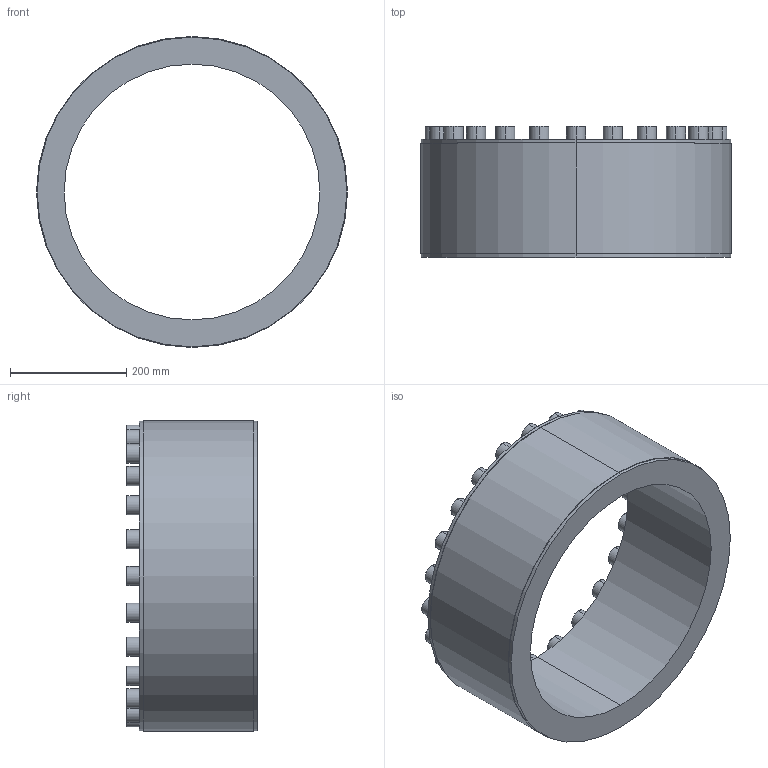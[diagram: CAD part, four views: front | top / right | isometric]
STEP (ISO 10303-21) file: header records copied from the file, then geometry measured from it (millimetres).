
FILE_DESCRIPTION (( 'STEP AP203' ), '1' );
FILE_NAME ('PL-D1 440-535.STEP', '2021-10-23T00:26:55', ( '' ), ( '' ), 'SwSTEP 2.0', 'SolidWorks 2018', '' );
FILE_SCHEMA (( 'CONFIG_CONTROL_DESIGN' ));
Length unit declared in the file: millimetre
Products named in the file (1): PL-D1 440-535
Bounding box: 535 x 225 x 535 mm (x, y, z)
Volume: 15131325.4 mm3; surface area: 836962.4 mm2
Topology: 1 solids, 1 shells, 300 faces, 696 edges, 448 vertices
Faces by surface type: plane 196, cylinder 56, torus 48
Entity records: 8565 total; most frequent: DIRECTION 1506, CARTESIAN_POINT 1445, ORIENTED_EDGE 1392, EDGE_CURVE 696, AXIS2_PLACEMENT_3D 509, VECTOR 488, LINE 488, VERTEX_POINT 448
